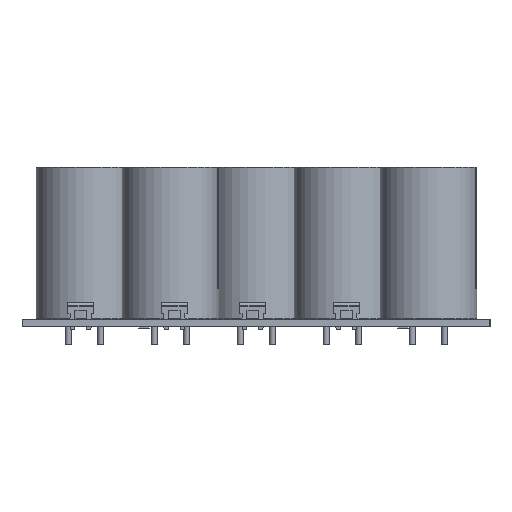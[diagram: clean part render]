
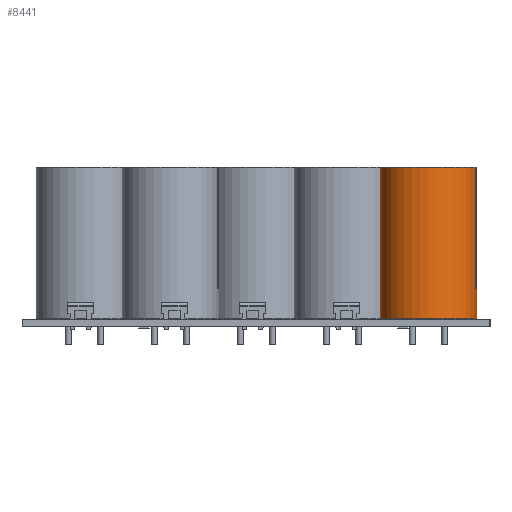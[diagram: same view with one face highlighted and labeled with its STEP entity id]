
A CAD part, left-side view. The second image highlights one B-rep face of the part: STEP entity #8441.
In plain terms, the highlighted cylindrical face has radius 14.999 mm (diameter 29.997 mm), a full revolution.
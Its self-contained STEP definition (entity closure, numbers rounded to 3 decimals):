
#8441 = ADVANCED_FACE('',(#8442),#8468,.T.);
#8442 = FACE_BOUND('',#8443,.T.);
#8443 = EDGE_LOOP('',(#8444,#8453,#8460,#8467));
#8444 = ORIENTED_EDGE('',*,*,#8445,.F.);
#8445 = EDGE_CURVE('',#8446,#8446,#8448,.T.);
#8446 = VERTEX_POINT('',#8447);
#8447 = CARTESIAN_POINT('',(-9.999,0.,46.99));
#8448 = CIRCLE('',#8449,14.999);
#8449 = AXIS2_PLACEMENT_3D('',#8450,#8451,#8452);
#8450 = CARTESIAN_POINT('',(5.,0.,46.99));
#8451 = DIRECTION('',(0.,0.,1.));
#8452 = DIRECTION('',(1.,0.,0.));
#8453 = ORIENTED_EDGE('',*,*,#8454,.F.);
#8454 = EDGE_CURVE('',#8455,#8446,#8457,.T.);
#8455 = VERTEX_POINT('',#8456);
#8456 = CARTESIAN_POINT('',(-9.999,0.,0.));
#8457 = B_SPLINE_CURVE_WITH_KNOTS('',1,(#8458,#8459),.UNSPECIFIED.,.F.,
  .F.,(2,2),(0.,46.99),.PIECEWISE_BEZIER_KNOTS.);
#8458 = CARTESIAN_POINT('',(-9.999,0.,0.));
#8459 = CARTESIAN_POINT('',(-9.999,0.,46.99));
#8460 = ORIENTED_EDGE('',*,*,#8461,.F.);
#8461 = EDGE_CURVE('',#8455,#8455,#8462,.T.);
#8462 = CIRCLE('',#8463,14.999);
#8463 = AXIS2_PLACEMENT_3D('',#8464,#8465,#8466);
#8464 = CARTESIAN_POINT('',(5.,0.,0.));
#8465 = DIRECTION('',(0.,0.,-1.));
#8466 = DIRECTION('',(1.,0.,0.));
#8467 = ORIENTED_EDGE('',*,*,#8454,.T.);
#8468 = CYLINDRICAL_SURFACE('',#8469,14.999);
#8469 = AXIS2_PLACEMENT_3D('',#8470,#8471,#8472);
#8470 = CARTESIAN_POINT('',(5.,0.,0.));
#8471 = DIRECTION('',(0.,0.,1.));
#8472 = DIRECTION('',(1.,0.,0.));
